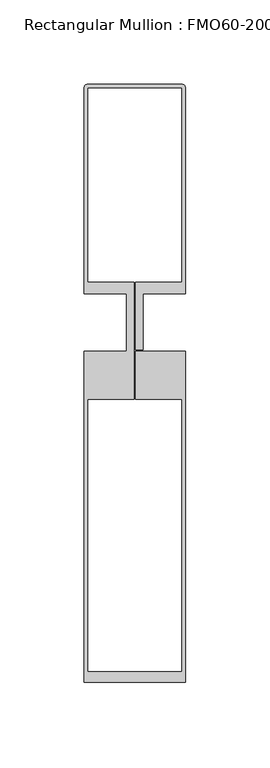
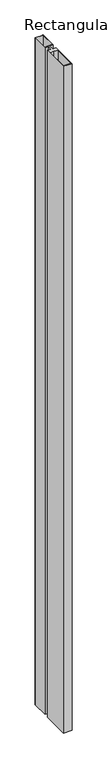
"""IFC4 building model written with IfcOpenShell, lengths in millimetres: member geometry, Rectangular Mullion : FMO60-200...FM60-120."""

from ifc_helpers import new_model, si_unit, point, frame, frame_2d, origin, place, context, project, spatial, polyline, circle_curve, trimmed, segment, composite_curve, outline, extrude, source, transform, mapped, element, save


def rectangular_mullion_fmo60_200_fm60_120_6c0fddd4(model_context):
    return source(origin(), model_context, "Body", "SweptSolid", [
        extrude(outline(composite_curve([segment(polyline([(-28.0, 141.0574739), (28.0, 141.0574739)]), True, "CONTINUOUS"), segment(trimmed(circle_curve(frame_2d((28.0, 139.0574739)), 2.0), [point((28.0, 141.0574739))], [point((30.0, 139.0574739))], False, "CARTESIAN"), True, "CONTINUOUS"), segment(polyline([(30.0, 139.0574739), (30.0, 17.0), (5.0, 17.0), (5.0, -16.2), (0.5, -16.2), (0.5, 23.8476589), (28.0000412, 23.8476589), (28.0000412, 139.0574739), (-28.0000412, 139.0574739), (-28.0000412, 23.8476589), (-0.5, 23.8476589), (-0.5, -45.5034642), (-28.0, -45.5034642), (-28.0, -207.009342), (28.0, -207.009342), (28.0, -45.5034642), (0.5, -45.5034642), (0.5, -17.0), (30.0, -17.0), (30.0, -213.009342), (-30.0, -213.009342), (-30.0, -17.0), (-5.0, -17.0), (-5.0, 17.0), (-30.0, 17.0), (-30.0, 139.0574739)]), True, "CONTINUOUS"), segment(trimmed(circle_curve(frame_2d((-28.0, 139.0574739)), 2.0), [point((-30.0, 139.0574739))], [point((-28.0, 141.0574739))], False, "CARTESIAN"), True, "CONTINUOUS")], self_intersect=False)), frame((0.0, 0.0, -5000.0), z_axis=(0.0, 0.0, 1.0), x_axis=(1.0, 0.0, 0.0)), (0.0, 0.0, 1.0), 5000.0),
    ])


if __name__ == "__main__":
    model = new_model("IFC4")
    model_context = context("Model", 3, world=origin())
    ifc_project = project(units=[si_unit("LENGTHUNIT", "METRE", prefix="MILLI")], contexts=[model_context])
    site = spatial("IfcSite", under=ifc_project)
    building = spatial("IfcBuilding", under=site)
    placement = place(None, origin())
    rectangular_mullion_fmo60_200_fm60_120_shape = rectangular_mullion_fmo60_200_fm60_120_6c0fddd4(model_context)
    element("IfcMember", 1, ObjectType="Rectangular Mullion : FMO60-200...FM60-120", at=placement, inside=building, context=model_context, shape_type="MappedRepresentation", body=[
        mapped(rectangular_mullion_fmo60_200_fm60_120_shape, transform((0.0, 0.0, 0.0), x_axis=(1.0, 0.0, 0.0), y_axis=(0.0, 1.0, 0.0), z_axis=(0.0, 0.0, 1.0))),
    ])
    save(model, "model.ifc")
